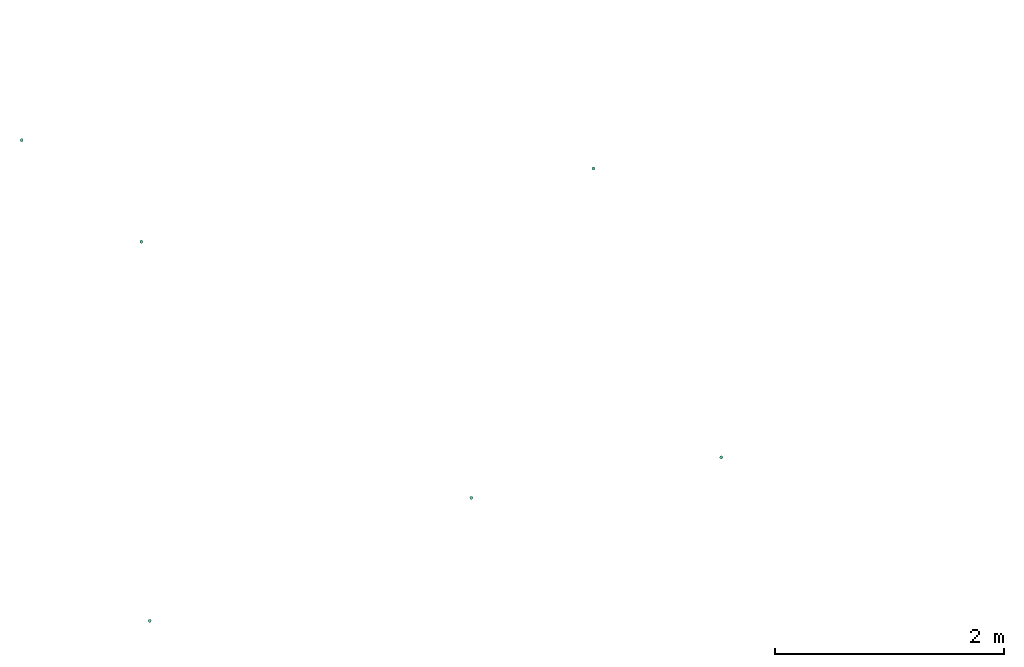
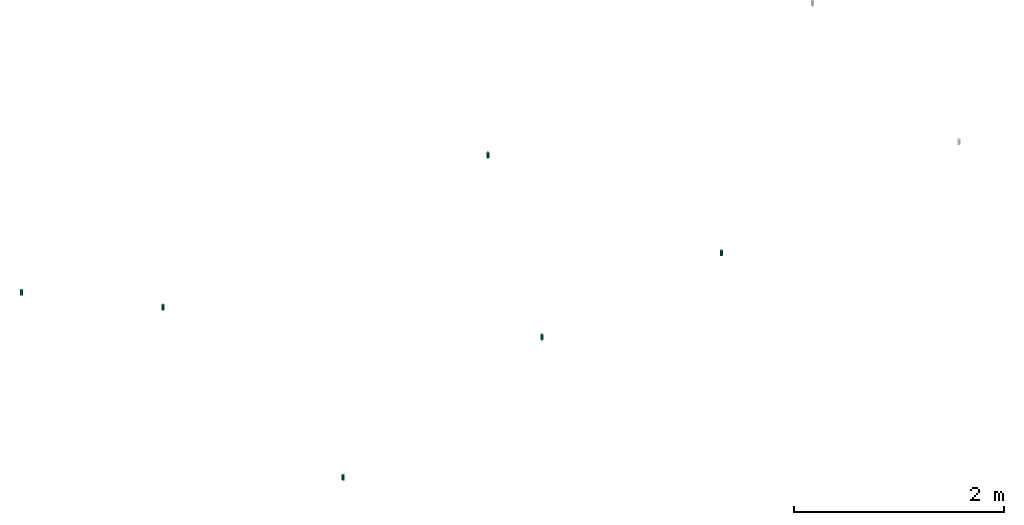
# One storey, part 1 of 2: 6 flow terminals.
"""IFC2X3 building model written with IfcOpenShell, lengths in millimetres."""

from ifc_helpers import new_model, entity, si_unit, converted_unit, derived_unit, direction, frame, frame_2d, origin, origin_with_axes, place, context, subcontext, project, spatial, circle, extrude, source, transform, mapped, material, type_object, element, save


model = new_model("IFC2X3")

# Units and contexts
model_context = context("Model", 3, precision=0.01, world=origin(), true_north=direction((6.12323399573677e-17, 1.0)))
plan_context = context("Plan", 3, precision=1e-05, world=origin_with_axes())
body_context = subcontext(model_context, "Body", "Model", "MODEL_VIEW")
ifc_project = project(units=[converted_unit("PLANEANGLEUNIT", "DEGREE", entity("IfcPositiveLengthMeasure", 0.0174532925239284), si_unit("PLANEANGLEUNIT", "RADIAN"), dimensions=[0, 0, 0, 0, 0, 0, 0]), si_unit("AREAUNIT", "SQUARE_METRE"), si_unit("LENGTHUNIT", "METRE", prefix="MILLI"), si_unit("MASSUNIT", "GRAM", prefix="KILO"), si_unit("POWERUNIT", "WATT"), si_unit("PRESSUREUNIT", "PASCAL", prefix="KILO"), si_unit("FORCEUNIT", "NEWTON", prefix="KILO"), si_unit("ELECTRICVOLTAGEUNIT", "VOLT"), si_unit("ELECTRICCURRENTUNIT", "AMPERE"), si_unit("THERMODYNAMICTEMPERATUREUNIT", "DEGREE_CELSIUS"), si_unit("TIMEUNIT", "SECOND"), si_unit("VOLUMEUNIT", "CUBIC_METRE"), derived_unit("LINEARVELOCITYUNIT", [(si_unit("LENGTHUNIT", "METRE"), 1), (si_unit("TIMEUNIT", "SECOND"), -1)]), derived_unit("VOLUMETRICFLOWRATEUNIT", [(si_unit("VOLUMEUNIT", "CUBIC_METRE"), 1), (si_unit("TIMEUNIT", "SECOND"), -1)]), derived_unit("THERMALTRANSMITTANCEUNIT", [(si_unit("POWERUNIT", "WATT"), 1), (si_unit("THERMODYNAMICTEMPERATUREUNIT", "KELVIN"), -1), (si_unit("AREAUNIT", "SQUARE_METRE"), -1)]), derived_unit("SOUNDPRESSUREUNIT", [(si_unit("PRESSUREUNIT", "PASCAL"), 1)])], contexts=[model_context, plan_context])

# Site, building, storey
site_placement = place(None, frame((-0.00071070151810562, 0.00438415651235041, 0.0), z_axis=(0.0, 0.0, 1.0), x_axis=(-0.160236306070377, 0.987078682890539, 0.0)))
site = spatial("IfcSite", under=ifc_project, at=site_placement, Name="Default", CompositionType="ELEMENT")
building_placement = place(site_placement, origin_with_axes())
building = spatial("IfcBuilding", under=site, at=building_placement, CompositionType="ELEMENT")
storey_placement = place(building_placement, frame((0.0, 0.0, 48160.0), z_axis=(0.0, 0.0, 1.0), x_axis=(1.0, 0.0, 0.0)))
storey = spatial("IfcBuildingStorey", under=building, at=storey_placement, Name="Nivå C", CompositionType="ELEMENT", Elevation=48160.0)

# Flow terminals
ifc_material = material(Name="<Unnamed>")
fire_suppression_terminal_type_1 = type_object("IfcFireSuppressionTerminalType", Name="UZ002T:Dyse/Spreder - UZ002T", PredefinedType="NOTDEFINED", material=ifc_material)
shared_shape = source(origin(), body_context, "Body", "SweptSolid", [
    extrude(circle(Radius=14.0, at=frame_2d((0.0, -2.26176240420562e-14), x_axis=(1.0, 0.0))), origin(), (0.0, 0.0, 1.0), 58.9999999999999),
])
for number, where, z_axis, x_axis in (
    (1, (768942.619644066, -589947.480498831, 2085.0), (0.0, 0.0, 1.0), (0.0, 1.0, 0.0)),
    (2, (769552.619644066, -592892.480498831, 2085.0), (0.0, 0.0, 1.0), (0.0, -1.0, 0.0)),
    (3, (769552.619644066, -595104.042448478, 2085.0), (0.0, 0.0, 1.0), (0.0, -1.0, 0.0)),
):
    element("IfcFlowTerminal", number, at=place(storey_placement, frame(where, z_axis=z_axis, x_axis=x_axis)), inside=storey, type_object=fire_suppression_terminal_type_1, material=ifc_material, Name="UZ002T:Dyse/Spreder - UZ002T", ObjectType="UZ002T:Dyse/Spreder - UZ002T", context=body_context, shape_type="MappedRepresentation", body=[
        mapped(shared_shape, transform((0.0, 0.0, 0.0), scale=1.0)),
    ])
fire_suppression_terminal_type_2 = type_object("IfcFireSuppressionTerminalType", Name="UZ002T:Dyse/Spreder - UZ002T", PredefinedType="NOTDEFINED", material=ifc_material)
for number, where, z_axis, x_axis in (
    (4, (772222.619644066, -594407.2067675, 2085.0), (0.0, 0.0, 1.0), (0.0, -1.0, 0.0)),
    (5, (772222.619644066, -590407.2067675, 2085.0), (0.0, 0.0, 1.0), (0.0, -1.0, 0.0)),
):
    element("IfcFlowTerminal", number, at=place(storey_placement, frame(where, z_axis=z_axis, x_axis=x_axis)), inside=storey, type_object=fire_suppression_terminal_type_2, material=ifc_material, Name="UZ002T:Dyse/Spreder - UZ002T", ObjectType="UZ002T:Dyse/Spreder - UZ002T", context=body_context, shape_type="MappedRepresentation", body=[
        mapped(shared_shape, transform((0.0, 0.0, 0.0), scale=1.0)),
    ])
flow_terminal_placement = place(storey_placement, frame((773266.139638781, -589515.924734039, 2085.0), z_axis=(0.0, 0.0, 1.0), x_axis=(0.0, 1.0, 0.0)))
element("IfcFlowTerminal", 6, at=flow_terminal_placement, inside=storey, type_object=fire_suppression_terminal_type_1, material=ifc_material, Name="UZ002T:Dyse/Spreder - UZ002T", ObjectType="UZ002T:Dyse/Spreder - UZ002T", context=body_context, shape_type="MappedRepresentation", body=[
    mapped(shared_shape, transform((0.0, 0.0, 0.0), scale=1.0)),
])

save(model, "model.ifc")
